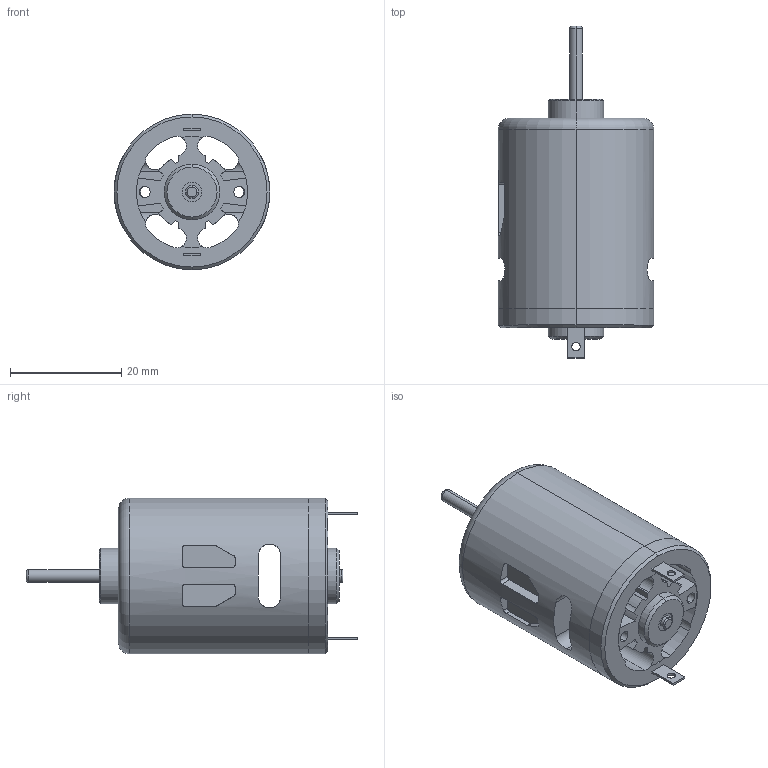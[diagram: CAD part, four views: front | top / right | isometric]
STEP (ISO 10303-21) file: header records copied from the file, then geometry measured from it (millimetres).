
FILE_DESCRIPTION (( 'STEP AP203' ), '1' );
FILE_NAME ('MOT-002.STEP', '2018-07-30T20:22:19', ( '' ), ( '' ), 'SwSTEP 2.0', 'SolidWorks 2018', '' );
FILE_SCHEMA (( 'CONFIG_CONTROL_DESIGN' ));
Length unit declared in the file: millimetre
Products named in the file (2): MOT-002
Bounding box: 28 x 59.7 x 28 mm (x, y, z)
Volume: 17743.7 mm3; surface area: 9390.2 mm2
Topology: 4 solids, 4 shells, 164 faces, 477 edges, 314 vertices
Faces by surface type: cylinder 87, plane 65, cone 6, torus 6
Entity records: 6048 total; most frequent: CARTESIAN_POINT 1440, ORIENTED_EDGE 954, DIRECTION 933, EDGE_CURVE 477, AXIS2_PLACEMENT_3D 347, VERTEX_POINT 314, LINE 239, VECTOR 239
